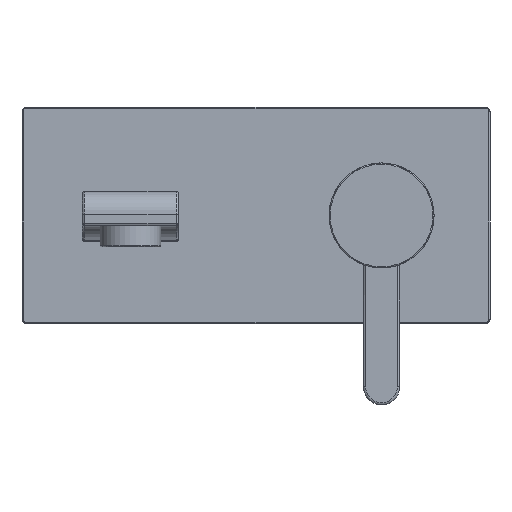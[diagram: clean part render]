
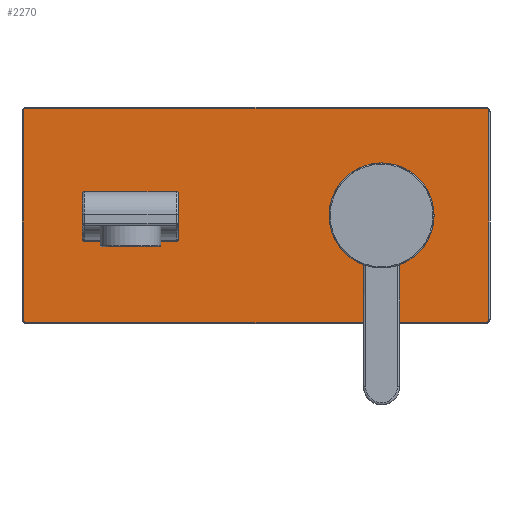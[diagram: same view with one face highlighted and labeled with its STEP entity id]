
A CAD part, front view. The second image highlights one B-rep face of the part: STEP entity #2270.
In plain terms, the highlighted planar face has unit normal (0, -1, 0).
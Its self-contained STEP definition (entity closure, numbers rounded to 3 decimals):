
#125=PLANE('',#2449);
#181=LINE('',#3353,#339);
#183=LINE('',#3365,#341);
#185=LINE('',#3377,#343);
#186=LINE('',#3385,#344);
#339=VECTOR('',#2689,10.);
#341=VECTOR('',#2703,10.);
#343=VECTOR('',#2717,10.);
#344=VECTOR('',#2728,10.);
#552=FACE_OUTER_BOUND('',#692,.T.);
#692=EDGE_LOOP('',(#1587,#1588,#1589,#1590,#1591,#1592,#1593,#1594));
#828=CIRCLE('',#2421,1.5);
#834=CIRCLE('',#2429,1.5);
#838=CIRCLE('',#2435,1.5);
#842=CIRCLE('',#2441,1.5);
#959=VERTEX_POINT('',#3341);
#960=VERTEX_POINT('',#3343);
#962=VERTEX_POINT('',#3349);
#964=VERTEX_POINT('',#3355);
#966=VERTEX_POINT('',#3361);
#968=VERTEX_POINT('',#3367);
#970=VERTEX_POINT('',#3373);
#972=VERTEX_POINT('',#3379);
#1188=EDGE_CURVE('',#959,#960,#828,.T.);
#1193=EDGE_CURVE('',#960,#962,#181,.T.);
#1196=EDGE_CURVE('',#962,#964,#834,.T.);
#1199=EDGE_CURVE('',#964,#966,#183,.T.);
#1202=EDGE_CURVE('',#966,#968,#838,.T.);
#1205=EDGE_CURVE('',#968,#970,#185,.T.);
#1208=EDGE_CURVE('',#970,#972,#842,.T.);
#1209=EDGE_CURVE('',#972,#959,#186,.T.);
#1587=ORIENTED_EDGE('',*,*,#1188,.F.);
#1588=ORIENTED_EDGE('',*,*,#1209,.F.);
#1589=ORIENTED_EDGE('',*,*,#1208,.F.);
#1590=ORIENTED_EDGE('',*,*,#1205,.F.);
#1591=ORIENTED_EDGE('',*,*,#1202,.F.);
#1592=ORIENTED_EDGE('',*,*,#1199,.F.);
#1593=ORIENTED_EDGE('',*,*,#1196,.F.);
#1594=ORIENTED_EDGE('',*,*,#1193,.F.);
#2270=ADVANCED_FACE('',(#552),#125,.T.);
#2421=AXIS2_PLACEMENT_3D('',#3344,#2678,#2679);
#2429=AXIS2_PLACEMENT_3D('',#3359,#2696,#2697);
#2435=AXIS2_PLACEMENT_3D('',#3371,#2710,#2711);
#2441=AXIS2_PLACEMENT_3D('',#3383,#2724,#2725);
#2449=AXIS2_PLACEMENT_3D('',#3405,#2749,#2750);
#2678=DIRECTION('center_axis',(0.,1.,0.));
#2679=DIRECTION('ref_axis',(-0.707,0.,0.707));
#2689=DIRECTION('',(1.,0.,0.));
#2696=DIRECTION('center_axis',(0.,1.,0.));
#2697=DIRECTION('ref_axis',(0.707,0.,0.707));
#2703=DIRECTION('',(0.,0.,-1.));
#2710=DIRECTION('center_axis',(0.,1.,0.));
#2711=DIRECTION('ref_axis',(0.707,0.,-0.707));
#2717=DIRECTION('',(-1.,0.,0.));
#2724=DIRECTION('center_axis',(0.,1.,0.));
#2725=DIRECTION('ref_axis',(-0.707,0.,-0.707));
#2728=DIRECTION('',(0.,0.,1.));
#2749=DIRECTION('center_axis',(0.,-1.,0.));
#2750=DIRECTION('ref_axis',(0.,0.,-1.));
#3341=CARTESIAN_POINT('',(0.,-102.,45.5));
#3343=CARTESIAN_POINT('',(1.5,-102.,47.));
#3344=CARTESIAN_POINT('Origin',(1.5,-102.,45.5));
#3349=CARTESIAN_POINT('',(202.5,-102.,47.));
#3353=CARTESIAN_POINT('',(153.25,-102.,47.));
#3355=CARTESIAN_POINT('',(204.,-102.,45.5));
#3359=CARTESIAN_POINT('Origin',(202.5,-102.,45.5));
#3361=CARTESIAN_POINT('',(204.,-102.,-45.5));
#3365=CARTESIAN_POINT('',(204.,-102.,-23.75));
#3367=CARTESIAN_POINT('',(202.5,-102.,-47.));
#3371=CARTESIAN_POINT('Origin',(202.5,-102.,-45.5));
#3373=CARTESIAN_POINT('',(1.5,-102.,-47.));
#3377=CARTESIAN_POINT('',(50.75,-102.,-47.));
#3379=CARTESIAN_POINT('',(0.,-102.,-45.5));
#3383=CARTESIAN_POINT('Origin',(1.5,-102.,-45.5));
#3385=CARTESIAN_POINT('',(0.,-102.,23.75));
#3405=CARTESIAN_POINT('Origin',(102.,-102.,0.));
